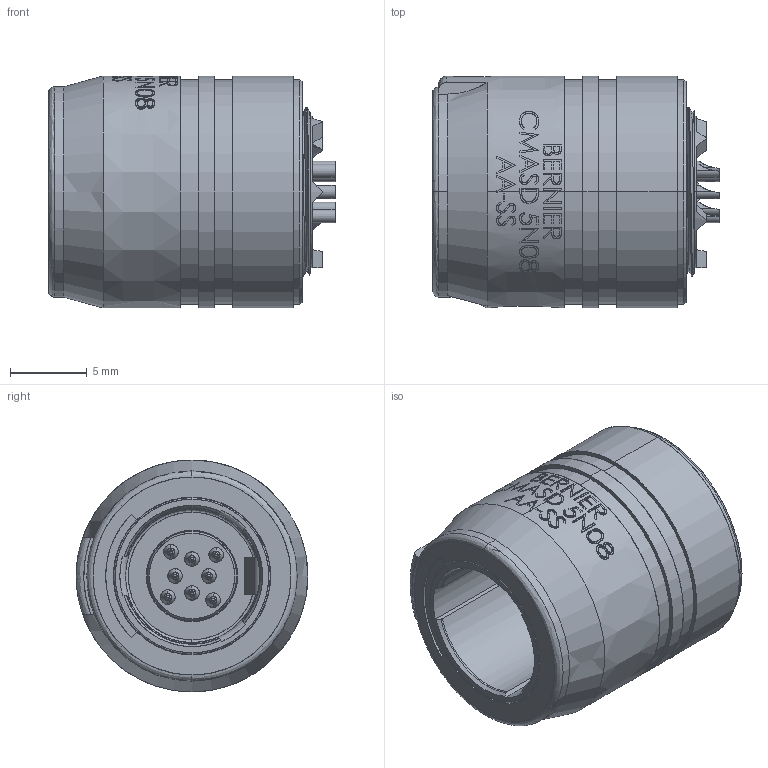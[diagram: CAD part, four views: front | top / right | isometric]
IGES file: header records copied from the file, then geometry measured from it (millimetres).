
Start section: SolidWorks IGES file using analytic representation for surfaces
Global section: file name: C:\Users\dmt\Desktop\CMASD 5N08.IGS; native system: SolidWorks 2016; preprocessor: SolidWorks 2016; author: dmt; date: 170309.131920; units: millimetre
Bounding box: 18.7 x 15.1 x 15.1 mm (x, y, z)
Surface area: 2049.9 mm2 (no closed solid volume)
Topology: 0 solids, 0 shells, 665 faces, 5883 edges, 5861 vertices
Faces by surface type: bspline 434, revolution 231
